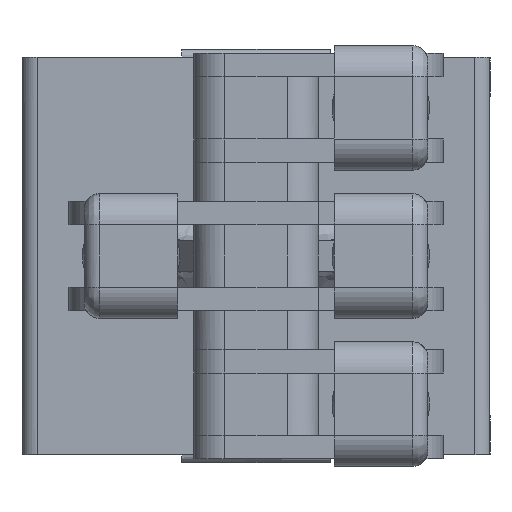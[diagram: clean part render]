
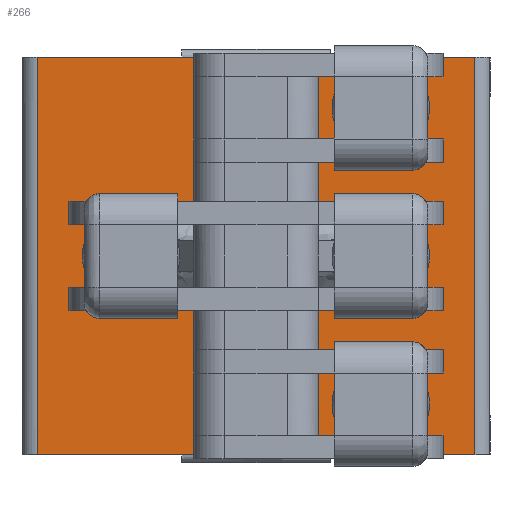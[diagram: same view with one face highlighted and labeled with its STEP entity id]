
A CAD part, front view. The second image highlights one B-rep face of the part: STEP entity #266.
In plain terms, the highlighted planar face has unit normal (0, -1, 0).
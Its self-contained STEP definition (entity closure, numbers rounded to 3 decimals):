
#136=FACE_BOUND('',#1364,.T.);
#266=ADVANCED_FACE('',(#808,#136),#8101,.T.);
#808=FACE_OUTER_BOUND('',#1363,.T.);
#1363=EDGE_LOOP('',(#2351,#2352,#2353,#2354));
#1364=EDGE_LOOP('',(#2355,#2356,#2357,#2358,#2359,#2360,#2361,#2362));
#2351=ORIENTED_EDGE('',*,*,#4680,.F.);
#2352=ORIENTED_EDGE('',*,*,#4683,.F.);
#2353=ORIENTED_EDGE('',*,*,#4679,.T.);
#2354=ORIENTED_EDGE('',*,*,#4682,.F.);
#2355=ORIENTED_EDGE('',*,*,#4654,.T.);
#2356=ORIENTED_EDGE('',*,*,#4655,.F.);
#2357=ORIENTED_EDGE('',*,*,#4671,.T.);
#2358=ORIENTED_EDGE('',*,*,#4664,.T.);
#2359=ORIENTED_EDGE('',*,*,#4662,.T.);
#2360=ORIENTED_EDGE('',*,*,#4663,.F.);
#2361=ORIENTED_EDGE('',*,*,#4670,.F.);
#2362=ORIENTED_EDGE('',*,*,#4656,.T.);
#4654=EDGE_CURVE('',#7166,#7165,#5851,.T.);
#4655=EDGE_CURVE('',#7163,#7165,#6440,.T.);
#4656=EDGE_CURVE('',#7164,#7166,#6441,.T.);
#4662=EDGE_CURVE('',#7172,#7171,#5852,.T.);
#4663=EDGE_CURVE('',#7169,#7171,#6447,.T.);
#4664=EDGE_CURVE('',#7170,#7172,#6448,.T.);
#4670=EDGE_CURVE('',#7164,#7169,#6454,.T.);
#4671=EDGE_CURVE('',#7163,#7170,#6455,.T.);
#4679=EDGE_CURVE('',#7180,#7179,#6463,.T.);
#4680=EDGE_CURVE('',#7182,#7181,#6464,.T.);
#4682=EDGE_CURVE('',#7181,#7179,#6466,.T.);
#4683=EDGE_CURVE('',#7180,#7182,#6467,.T.);
#5851=(
BOUNDED_CURVE()
B_SPLINE_CURVE(1,(#11732,#11733),.UNSPECIFIED.,.F.,.F.)
B_SPLINE_CURVE_WITH_KNOTS((2,2),(-22.383,0.),.UNSPECIFIED.)
CURVE()
GEOMETRIC_REPRESENTATION_ITEM()
RATIONAL_B_SPLINE_CURVE((1.,1.))
REPRESENTATION_ITEM('')
);
#5852=(
BOUNDED_CURVE()
B_SPLINE_CURVE(1,(#11764,#11765),.UNSPECIFIED.,.F.,.F.)
B_SPLINE_CURVE_WITH_KNOTS((2,2),(-22.383,0.),.UNSPECIFIED.)
CURVE()
GEOMETRIC_REPRESENTATION_ITEM()
RATIONAL_B_SPLINE_CURVE((1.,1.))
REPRESENTATION_ITEM('')
);
#6440=B_SPLINE_CURVE_WITH_KNOTS('',1,(#11734,#11735),.UNSPECIFIED.,.F.,
 .F.,(2,2),(-6.571,-5.571),.UNSPECIFIED.);
#6441=B_SPLINE_CURVE_WITH_KNOTS('',1,(#11736,#11737),.UNSPECIFIED.,.F.,
 .F.,(2,2),(-6.571,-5.571),.UNSPECIFIED.);
#6447=B_SPLINE_CURVE_WITH_KNOTS('',1,(#11766,#11767),.UNSPECIFIED.,.F.,
 .F.,(2,2),(-6.571,-5.571),.UNSPECIFIED.);
#6448=B_SPLINE_CURVE_WITH_KNOTS('',1,(#11768,#11769),.UNSPECIFIED.,.F.,
 .F.,(2,2),(-6.571,-5.571),.UNSPECIFIED.);
#6454=B_SPLINE_CURVE_WITH_KNOTS('',1,(#11796,#11797),.UNSPECIFIED.,.F.,
 .F.,(2,2),(60.,80.),.UNSPECIFIED.);
#6455=B_SPLINE_CURVE_WITH_KNOTS('',1,(#11798,#11799),.UNSPECIFIED.,.F.,
 .F.,(2,2),(60.,80.),.UNSPECIFIED.);
#6463=B_SPLINE_CURVE_WITH_KNOTS('',1,(#11814,#11815),.UNSPECIFIED.,.F.,
 .F.,(2,2),(2.,58.),.UNSPECIFIED.);
#6464=B_SPLINE_CURVE_WITH_KNOTS('',1,(#11816,#11817),.UNSPECIFIED.,.F.,
 .F.,(2,2),(2.,58.),.UNSPECIFIED.);
#6466=B_SPLINE_CURVE_WITH_KNOTS('',1,(#11820,#11821),.UNSPECIFIED.,.F.,
 .F.,(2,2),(0.,52.),.UNSPECIFIED.);
#6467=B_SPLINE_CURVE_WITH_KNOTS('',1,(#11822,#11823),.UNSPECIFIED.,.F.,
 .F.,(2,2),(0.,52.),.UNSPECIFIED.);
#7163=VERTEX_POINT('',#11575);
#7164=VERTEX_POINT('',#11576);
#7165=VERTEX_POINT('',#11577);
#7166=VERTEX_POINT('',#11578);
#7169=VERTEX_POINT('',#11581);
#7170=VERTEX_POINT('',#11582);
#7171=VERTEX_POINT('',#11583);
#7172=VERTEX_POINT('',#11584);
#7179=VERTEX_POINT('',#11591);
#7180=VERTEX_POINT('',#11592);
#7181=VERTEX_POINT('',#11593);
#7182=VERTEX_POINT('',#11594);
#8101=PLANE('',#8383);
#8383=AXIS2_PLACEMENT_3D('',#11278,#8648,$);
#8648=DIRECTION('',(0.,-1.,0.));
#11278=CARTESIAN_POINT('',(-28.,-22.,-25.5));
#11575=CARTESIAN_POINT('',(-12.018,-22.,-2.));
#11576=CARTESIAN_POINT('',(11.982,-22.,-2.));
#11577=CARTESIAN_POINT('',(-12.018,-22.,-6.));
#11578=CARTESIAN_POINT('',(11.982,-22.,-6.));
#11581=CARTESIAN_POINT('',(11.982,-22.,2.));
#11582=CARTESIAN_POINT('',(-12.018,-22.,2.));
#11583=CARTESIAN_POINT('',(11.982,-22.,6.));
#11584=CARTESIAN_POINT('',(-12.018,-22.,6.));
#11591=CARTESIAN_POINT('',(28.,-22.,-25.5));
#11592=CARTESIAN_POINT('',(-28.,-22.,-25.5));
#11593=CARTESIAN_POINT('',(28.,-22.,25.5));
#11594=CARTESIAN_POINT('',(-28.,-22.,25.5));
#11732=CARTESIAN_POINT('',(11.982,-22.,-6.));
#11733=CARTESIAN_POINT('',(-12.018,-22.,-6.));
#11734=CARTESIAN_POINT('',(-12.018,-22.,-2.));
#11735=CARTESIAN_POINT('',(-12.018,-22.,-6.));
#11736=CARTESIAN_POINT('',(11.982,-22.,-2.));
#11737=CARTESIAN_POINT('',(11.982,-22.,-6.));
#11764=CARTESIAN_POINT('',(-12.018,-22.,6.));
#11765=CARTESIAN_POINT('',(11.982,-22.,6.));
#11766=CARTESIAN_POINT('',(11.982,-22.,2.));
#11767=CARTESIAN_POINT('',(11.982,-22.,6.));
#11768=CARTESIAN_POINT('',(-12.018,-22.,2.));
#11769=CARTESIAN_POINT('',(-12.018,-22.,6.));
#11796=CARTESIAN_POINT('',(11.982,-22.,-2.));
#11797=CARTESIAN_POINT('',(11.982,-22.,2.));
#11798=CARTESIAN_POINT('',(-12.018,-22.,-2.));
#11799=CARTESIAN_POINT('',(-12.018,-22.,2.));
#11814=CARTESIAN_POINT('',(-28.,-22.,-25.5));
#11815=CARTESIAN_POINT('',(28.,-22.,-25.5));
#11816=CARTESIAN_POINT('',(-28.,-22.,25.5));
#11817=CARTESIAN_POINT('',(28.,-22.,25.5));
#11820=CARTESIAN_POINT('',(28.,-22.,25.5));
#11821=CARTESIAN_POINT('',(28.,-22.,-25.5));
#11822=CARTESIAN_POINT('',(-28.,-22.,-25.5));
#11823=CARTESIAN_POINT('',(-28.,-22.,25.5));
